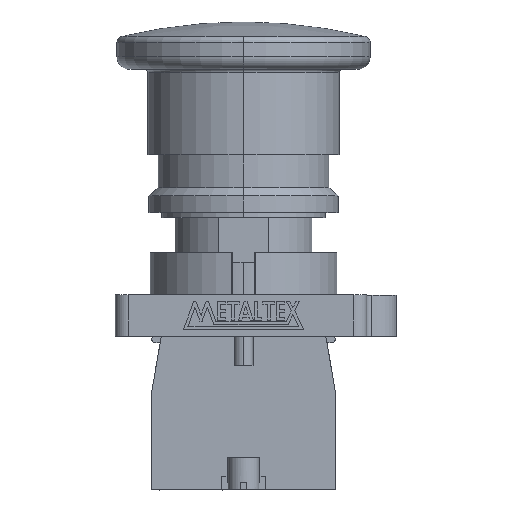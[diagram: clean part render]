
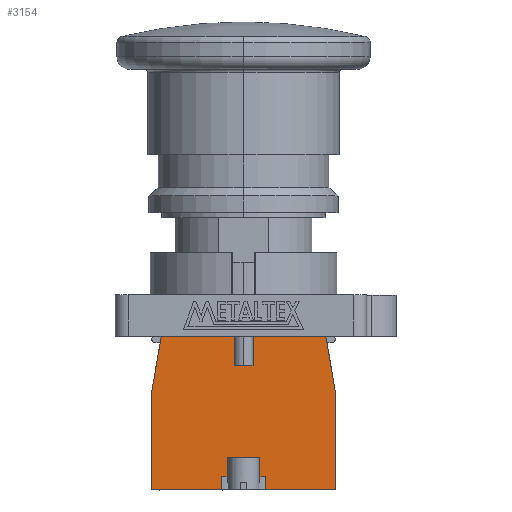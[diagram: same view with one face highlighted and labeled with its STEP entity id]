
A CAD part, top view. The second image highlights one B-rep face of the part: STEP entity #3154.
In plain terms, the highlighted planar face has unit normal (0, 0, 1).
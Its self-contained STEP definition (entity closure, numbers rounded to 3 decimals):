
#877 = LINE ( 'NONE', #878, #5336 ) ;
#878 = CARTESIAN_POINT ( 'NONE',  ( 1.5, 19.6, 7.45 ) ) ;
#879 = DIRECTION ( 'NONE',  ( 0., 1., 0. ) ) ;
#880 = LINE ( 'NONE', #881, #5335 ) ;
#881 = CARTESIAN_POINT ( 'NONE',  ( 3.5, 0., 7.45 ) ) ;
#882 = DIRECTION ( 'NONE',  ( 0., 1., 0. ) ) ;
#883 = LINE ( 'NONE', #884, #5334 ) ;
#884 = CARTESIAN_POINT ( 'NONE',  ( 0., 2., 7.45 ) ) ;
#885 = DIRECTION ( 'NONE',  ( 1., 0., 0. ) ) ;
#886 = LINE ( 'NONE', #887, #5332 ) ;
#887 = CARTESIAN_POINT ( 'NONE',  ( 2.6, 0., 7.45 ) ) ;
#888 = DIRECTION ( 'NONE',  ( 0., 1., 0. ) ) ;
#889 = LINE ( 'NONE', #890, #5331 ) ;
#890 = CARTESIAN_POINT ( 'NONE',  ( -2.6, 0., 7.45 ) ) ;
#891 = DIRECTION ( 'NONE',  ( 0., 1., 0. ) ) ;
#892 = LINE ( 'NONE', #893, #5330 ) ;
#893 = CARTESIAN_POINT ( 'NONE',  ( 0., 2., 7.45 ) ) ;
#894 = DIRECTION ( 'NONE',  ( 1., 0., 0. ) ) ;
#895 = LINE ( 'NONE', #896, #5328 ) ;
#896 = CARTESIAN_POINT ( 'NONE',  ( -3.5, 0., 7.45 ) ) ;
#897 = DIRECTION ( 'NONE',  ( 0., 1., 0. ) ) ;
#898 = LINE ( 'NONE', #899, #5327 ) ;
#899 = CARTESIAN_POINT ( 'NONE',  ( -1.5, 19.6, 7.45 ) ) ;
#900 = DIRECTION ( 'NONE',  ( 0., 1., 0. ) ) ;
#901 = LINE ( 'NONE', #902, #5323 ) ;
#902 = CARTESIAN_POINT ( 'NONE',  ( -13., 24.2, 7.45 ) ) ;
#903 = DIRECTION ( 'NONE',  ( -0.17, -0.985, 0. ) ) ;
#913 = LINE ( 'NONE', #914, #5316 ) ;
#914 = CARTESIAN_POINT ( 'NONE',  ( 14.5, 0., 7.45 ) ) ;
#915 = DIRECTION ( 'NONE',  ( 0., 1., 0. ) ) ;
#1027 = LINE ( 'NONE', #1028, #5271 ) ;
#1028 = CARTESIAN_POINT ( 'NONE',  ( -14.5, 0., 7.45 ) ) ;
#1029 = DIRECTION ( 'NONE',  ( 1., 0., 0. ) ) ;
#1039 = LINE ( 'NONE', #1040, #5267 ) ;
#1040 = CARTESIAN_POINT ( 'NONE',  ( -14.5, 0., 7.45 ) ) ;
#1041 = DIRECTION ( 'NONE',  ( 1., 0., 0. ) ) ;
#1192 = LINE ( 'NONE', #1193, #5149 ) ;
#1193 = CARTESIAN_POINT ( 'NONE',  ( -14.5, 15.5, 7.45 ) ) ;
#1194 = DIRECTION ( 'NONE',  ( 0., -1., 0. ) ) ;
#1213 = LINE ( 'NONE', #1214, #5139 ) ;
#1214 = CARTESIAN_POINT ( 'NONE',  ( 0., 19.6, 7.45 ) ) ;
#1215 = DIRECTION ( 'NONE',  ( -1., 0., 0. ) ) ;
#1231 = LINE ( 'NONE', #1232, #5129 ) ;
#1232 = CARTESIAN_POINT ( 'NONE',  ( 0., 5., 7.45 ) ) ;
#1233 = DIRECTION ( 'NONE',  ( -1., 0., 0. ) ) ;
#1339 = LINE ( 'NONE', #1340, #5079 ) ;
#1340 = CARTESIAN_POINT ( 'NONE',  ( 13., 24.2, 7.45 ) ) ;
#1341 = DIRECTION ( 'NONE',  ( -1., 0., 0. ) ) ;
#1351 = LINE ( 'NONE', #1352, #5073 ) ;
#1352 = CARTESIAN_POINT ( 'NONE',  ( 13., 24.2, 7.45 ) ) ;
#1353 = DIRECTION ( 'NONE',  ( -1., 0., 0. ) ) ;
#1372 = LINE ( 'NONE', #1373, #5062 ) ;
#1373 = CARTESIAN_POINT ( 'NONE',  ( 14.5, 15.5, 7.45 ) ) ;
#1374 = DIRECTION ( 'NONE',  ( -0.17, 0.985, 0. ) ) ;
#1634 = VERTEX_POINT ( 'NONE', #8200 ) ;
#1637 = VERTEX_POINT ( 'NONE', #8203 ) ;
#1641 = VERTEX_POINT ( 'NONE', #8207 ) ;
#1644 = VERTEX_POINT ( 'NONE', #8210 ) ;
#1670 = VERTEX_POINT ( 'NONE', #8236 ) ;
#1709 = VERTEX_POINT ( 'NONE', #8275 ) ;
#1710 = VERTEX_POINT ( 'NONE', #8276 ) ;
#2760 = VERTEX_POINT ( 'NONE', #8422 ) ;
#2761 = VERTEX_POINT ( 'NONE', #8423 ) ;
#2764 = VERTEX_POINT ( 'NONE', #8426 ) ;
#2765 = VERTEX_POINT ( 'NONE', #8427 ) ;
#3154 = ADVANCED_FACE ( 'NONE', ( #5638 ), #7090, .T. ) ;
#3847 = ORIENTED_EDGE ( 'NONE', *, *, #11344, .T. ) ;
#3849 = ORIENTED_EDGE ( 'NONE', *, *, #11236, .F. ) ;
#3850 = ORIENTED_EDGE ( 'NONE', *, *, #11386, .T. ) ;
#3851 = ORIENTED_EDGE ( 'NONE', *, *, #11248, .T. ) ;
#3852 = ORIENTED_EDGE ( 'NONE', *, *, #11397, .T. ) ;
#3853 = ORIENTED_EDGE ( 'NONE', *, *, #11290, .T. ) ;
#3854 = ORIENTED_EDGE ( 'NONE', *, *, #11238, .T. ) ;
#3855 = ORIENTED_EDGE ( 'NONE', *, *, #11237, .F. ) ;
#3856 = ORIENTED_EDGE ( 'NONE', *, *, #11239, .F. ) ;
#3857 = ORIENTED_EDGE ( 'NONE', *, *, #11350, .F. ) ;
#3858 = ORIENTED_EDGE ( 'NONE', *, *, #11241, .T. ) ;
#3859 = ORIENTED_EDGE ( 'NONE', *, *, #11240, .T. ) ;
#3860 = ORIENTED_EDGE ( 'NONE', *, *, #11242, .T. ) ;
#3861 = ORIENTED_EDGE ( 'NONE', *, *, #11286, .T. ) ;
#3862 = ORIENTED_EDGE ( 'NONE', *, *, #11390, .T. ) ;
#3863 = ORIENTED_EDGE ( 'NONE', *, *, #11337, .T. ) ;
#3864 = ORIENTED_EDGE ( 'NONE', *, *, #11243, .T. ) ;
#3865 = ORIENTED_EDGE ( 'NONE', *, *, #11244, .T. ) ;
#4120 = VERTEX_POINT ( 'NONE', #7626 ) ;
#4144 = VERTEX_POINT ( 'NONE', #7674 ) ;
#4146 = VERTEX_POINT ( 'NONE', #7678 ) ;
#4147 = VERTEX_POINT ( 'NONE', #7680 ) ;
#4211 = VERTEX_POINT ( 'NONE', #7808 ) ;
#4212 = VERTEX_POINT ( 'NONE', #7810 ) ;
#4214 = VERTEX_POINT ( 'NONE', #7814 ) ;
#4541 = EDGE_LOOP ( 'NONE', ( #3864, #3862, #3865, #3863, #3861, #3860, #3858, #3859, #3857, #3856, #3854, #3855, #3853, #3851, #3852, #3850, #3849, #3847 ) ) ;
#5062 = VECTOR ( 'NONE', #1374, 1000. ) ;
#5073 = VECTOR ( 'NONE', #1353, 1000. ) ;
#5079 = VECTOR ( 'NONE', #1341, 1000. ) ;
#5129 = VECTOR ( 'NONE', #1233, 1000. ) ;
#5139 = VECTOR ( 'NONE', #1215, 1000. ) ;
#5149 = VECTOR ( 'NONE', #1194, 1000. ) ;
#5267 = VECTOR ( 'NONE', #1041, 1000. ) ;
#5271 = VECTOR ( 'NONE', #1029, 1000. ) ;
#5316 = VECTOR ( 'NONE', #915, 1000. ) ;
#5323 = VECTOR ( 'NONE', #903, 1000. ) ;
#5327 = VECTOR ( 'NONE', #900, 1000. ) ;
#5328 = VECTOR ( 'NONE', #897, 1000. ) ;
#5330 = VECTOR ( 'NONE', #894, 1000. ) ;
#5331 = VECTOR ( 'NONE', #891, 1000. ) ;
#5332 = VECTOR ( 'NONE', #888, 1000. ) ;
#5334 = VECTOR ( 'NONE', #885, 1000. ) ;
#5335 = VECTOR ( 'NONE', #882, 1000. ) ;
#5336 = VECTOR ( 'NONE', #879, 1000. ) ;
#5633 = AXIS2_PLACEMENT_3D ( 'NONE', #7091, #7092, #7093 ) ;
#5638 = FACE_OUTER_BOUND ( 'NONE', #4541, .T. ) ;
#7090 = PLANE ( 'NONE',  #5633 ) ;
#7091 = CARTESIAN_POINT ( 'NONE',  ( 0., 0., 7.45 ) ) ;
#7092 = DIRECTION ( 'NONE',  ( 0., 0., 1. ) ) ;
#7093 = DIRECTION ( 'NONE',  ( 1., 0., 0. ) ) ;
#7626 = CARTESIAN_POINT ( 'NONE',  ( -3.5, 2., 7.45 ) ) ;
#7674 = CARTESIAN_POINT ( 'NONE',  ( 3.5, 2., 7.45 ) ) ;
#7678 = CARTESIAN_POINT ( 'NONE',  ( 2.6, 2., 7.45 ) ) ;
#7680 = CARTESIAN_POINT ( 'NONE',  ( -2.6, 2., 7.45 ) ) ;
#7808 = CARTESIAN_POINT ( 'NONE',  ( 3.5, 0., 7.45 ) ) ;
#7810 = CARTESIAN_POINT ( 'NONE',  ( 14.5, 0., 7.45 ) ) ;
#7814 = CARTESIAN_POINT ( 'NONE',  ( -3.5, 0., 7.45 ) ) ;
#8200 = CARTESIAN_POINT ( 'NONE',  ( -2.6, 5., 7.45 ) ) ;
#8203 = CARTESIAN_POINT ( 'NONE',  ( 2.6, 5., 7.45 ) ) ;
#8207 = CARTESIAN_POINT ( 'NONE',  ( 1.5, 19.6, 7.45 ) ) ;
#8210 = CARTESIAN_POINT ( 'NONE',  ( -1.5, 19.6, 7.45 ) ) ;
#8236 = CARTESIAN_POINT ( 'NONE',  ( 1.5, 24.2, 7.45 ) ) ;
#8275 = CARTESIAN_POINT ( 'NONE',  ( -14.5, 0., 7.45 ) ) ;
#8276 = CARTESIAN_POINT ( 'NONE',  ( -14.5, 15.5, 7.45 ) ) ;
#8422 = CARTESIAN_POINT ( 'NONE',  ( -1.5, 24.2, 7.45 ) ) ;
#8423 = CARTESIAN_POINT ( 'NONE',  ( -13., 24.2, 7.45 ) ) ;
#8426 = CARTESIAN_POINT ( 'NONE',  ( 14.5, 15.5, 7.45 ) ) ;
#8427 = CARTESIAN_POINT ( 'NONE',  ( 13., 24.2, 7.45 ) ) ;
#11236 = EDGE_CURVE ( 'NONE', #1641, #1670, #877, .T. ) ;
#11237 = EDGE_CURVE ( 'NONE', #4211, #4144, #880, .T. ) ;
#11238 = EDGE_CURVE ( 'NONE', #4146, #4144, #883, .T. ) ;
#11239 = EDGE_CURVE ( 'NONE', #4146, #1637, #886, .T. ) ;
#11240 = EDGE_CURVE ( 'NONE', #4147, #1634, #889, .T. ) ;
#11241 = EDGE_CURVE ( 'NONE', #4120, #4147, #892, .T. ) ;
#11242 = EDGE_CURVE ( 'NONE', #4214, #4120, #895, .T. ) ;
#11243 = EDGE_CURVE ( 'NONE', #1644, #2760, #898, .T. ) ;
#11244 = EDGE_CURVE ( 'NONE', #2761, #1710, #901, .T. ) ;
#11248 = EDGE_CURVE ( 'NONE', #4212, #2764, #913, .T. ) ;
#11286 = EDGE_CURVE ( 'NONE', #1709, #4214, #1027, .T. ) ;
#11290 = EDGE_CURVE ( 'NONE', #4211, #4212, #1039, .T. ) ;
#11337 = EDGE_CURVE ( 'NONE', #1710, #1709, #1192, .T. ) ;
#11344 = EDGE_CURVE ( 'NONE', #1641, #1644, #1213, .T. ) ;
#11350 = EDGE_CURVE ( 'NONE', #1637, #1634, #1231, .T. ) ;
#11386 = EDGE_CURVE ( 'NONE', #2765, #1670, #1339, .T. ) ;
#11390 = EDGE_CURVE ( 'NONE', #2760, #2761, #1351, .T. ) ;
#11397 = EDGE_CURVE ( 'NONE', #2764, #2765, #1372, .T. ) ;
